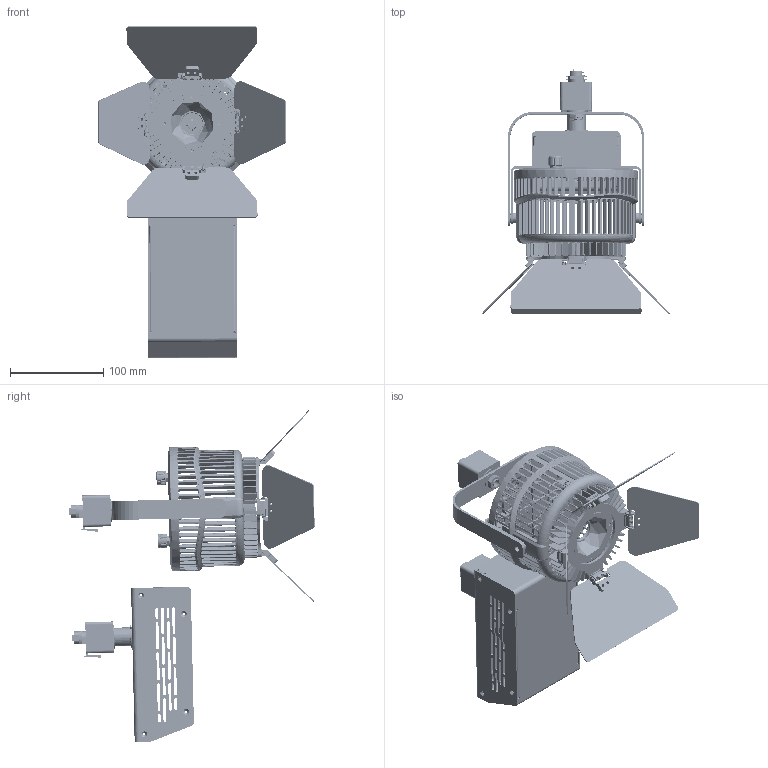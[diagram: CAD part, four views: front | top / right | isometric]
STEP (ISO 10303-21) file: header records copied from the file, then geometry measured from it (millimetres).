
FILE_DESCRIPTION (( 'STEP AP214' ), '1' );
FILE_NAME ('W500BD-TG-PS.STEP', '2024-02-01T20:05:30', ( '' ), ( '' ), 'SwSTEP 2.0', 'SolidWorks 2022', '' );
FILE_SCHEMA (( 'AUTOMOTIVE_DESIGN' ));
Length unit declared in the file: millimetre
Products named in the file (44): 5020893-3211020005_ _Flat Washer Customized, Nylon Black, ID11mm OD20mm T0.5mm___; 62280-1313006_ _SCREW, M3x6mmL, PAN HEAD TORX WITH THREAD LOCK___; 5022427-XXX_A4_250W Power Box FRAME (TG&TEX&CLP TYPE), 165x95x64mm___; 5022348-104_ _Toothed Washer Series, M3___; W500BD-TG-PS; 62432-11100100140040_ _Hex Nuts Customized, M10 P1.0 S14 T4 W-Zinc___; 5021287_A2_Toothed Lock Washer M6, OD11 ID6.4 T0.55, SUS___; 5022189_A1_Plate, OD=48, ID=23, T=2.0mm___; 5010177-XXX_A2_Assembly BOM, Kessil W500_55D-BD-[TEX]; 5022435_A2_G-Type Track Stop Washer, SUS304, 32x22x1(H)mm___; 5020655-012_A4_Hinge, Assembly, Barndoor Video Light, Pitch7.4, Black_01; 5022445-XXX_A1_DC Plug for W Series, D=12mm_-002(Black); 5022358-1051452003_ _Wave Spring Washer, ID10.5 OD14.5 H2.0 T0.3, Black___; 5022424-XXX_A2_250W Power Box Cover (TG&TEX-PS&CLP&TJ TYPE), 165x92x62.5(H)mm___; 5120540-XXX_A1_Rear Panel, OD=133, T=13.65mm, W-Series_5120531-001 W500; 5022667-XXX_A1_Holder, Barn Door Frame For W-Series, OD=107, T=3mm___; 5021498-114035130201_ _Standard Types of Tapping Screws for Plastic, Pan Head, Phillips, M3.5xL20___; 5022185_A3_Frame, T=1.5mm AL5052 Black, 24x20x65.15mm___; 5020757-002_A2_VR Washer, Kessil A360 Aquarium Light___; 5022341-XXX_A1_Minor Leaf of 3 inch Barndoor, L96, W77, T1.1___; 5022340-XXX_A1_Major Leaf of 3 inch Barndoor, L140, W77, T1.1___; 5020757-001_A1_VR Nut, Kessil A360 Aquarium Light___; 5120561_A1_Frame, T=1.5mm AL5052 Black, 17.5x20x65.15mm___; 5020919-XXX_A5_Spacer, Pitch 6.0, Light Shielding, Barn Door___; 5022493-XXX_A2_Spacer Support, ID10.5 OD20 H17mm___; 5120530-XXX_A1_Assembly BOM, W500 Reflector Type_Reflector - 55D-BD; 5021926-XXX_A2_KNOB, 18T, OD=14.9, ID=6, L=10MM_C1; 5120539-XXX_A1_Housing, OD=133, ID=121, T=78.1mm, For Reflector, Without Logo___; 5021924_A2_BOLT SCREW, M3.0, L=19.2MM___; 5022452-001_A3_Reflector Sink Holder, D108x14.35(H)mm (-002 is White)_-001(Black); 5120519-XXX_A3_Assembly BOM, Kessil W500 Power Box_TON(US)-PS; 5120529-XXX_A1_Assembly BOM, W500 Light Engine_Finish; 62280-1363006_ _SCREW, M3x6mmL, PAN HEAD TORX WITH THREAD LOCK___; 5020734-XXX_A3_Spacer, Hinge, Barn Door_-001_Black; 5020921-XXX_A5_Spacer, Pitch 7.4, Light Shielding, Barn Door___; 5022398-XXX_A1_Plug for W Series, 19x10x9.4mm_-002(Black); 5020655-011_A4_Hinge, Assembly, Barndoor Video Light, Pitch6.0, Black_01; 5022446-XXX_A2_W Series, 15F YOKE PART-A, 140x62x18mm___; 5120531-XXX_A4_Assembly BOM, Light Mounting Type for Yoke_TEX; 5047581-XXX_A2_Track Adapter for Global Eco Track (GES Series)_For W500 Power Box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
Assembly tree (63 placements, depth 4):
  W500BD-TG-PS
    5120519-XXX_A3_Assembly BOM, Kessil W500 Power Box_TON(US)-PS
      5022427-XXX_A4_250W Power Box FRAME (TG&TEX&CLP TYPE), 165x95x64mm___
      5047581-XXX_A2_Track Adapter for Global Eco Track (GES Series)_For W500 Power Box
      5022493-XXX_A2_Spacer Support, ID10.5 OD20 H17mm___
      5022424-XXX_A2_250W Power Box Cover (TG&TEX-PS&CLP&TJ TYPE), 165x92x62.5(H)mm___
    5010177-XXX_A2_Assembly BOM, Kessil W500_55D-BD-[TEX]
      5120529-XXX_A1_Assembly BOM, W500 Light Engine_Finish
        5120540-XXX_A1_Rear Panel, OD=133, T=13.65mm, W-Series_5120531-001 W500
        5022398-XXX_A1_Plug for W Series, 19x10x9.4mm_-002(Black)
        5022445-XXX_A1_DC Plug for W Series, D=12mm_-002(Black)
        5022185_A3_Frame, T=1.5mm AL5052 Black, 24x20x65.15mm___
        5120561_A1_Frame, T=1.5mm AL5052 Black, 17.5x20x65.15mm___
        5022348-104_ _Toothed Washer Series, M3___  x2
        62280-1313006_ _SCREW, M3x6mmL, PAN HEAD TORX WITH THREAD LOCK___  x4
        5021924_A2_BOLT SCREW, M3.0, L=19.2MM___  x2
        5020757-002_A2_VR Washer, Kessil A360 Aquarium Light___  x2
        5020757-001_A1_VR Nut, Kessil A360 Aquarium Light___  x2
        5021926-XXX_A2_KNOB, 18T, OD=14.9, ID=6, L=10MM_C1  x2
        62280-1363006_ _SCREW, M3x6mmL, PAN HEAD TORX WITH THREAD LOCK___  x2
      5120530-XXX_A1_Assembly BOM, W500 Reflector Type_Reflector - 55D-BD
        5120539-XXX_A1_Housing, OD=133, ID=121, T=78.1mm, For Reflector, Without Logo___
        5022189_A1_Plate, OD=48, ID=23, T=2.0mm___
        62280-1343006_ _SCREW, PAN HEAD TROX W-THD LOCK, SUS-410, BLACK, M3xL6mm___  x2
        5022452-001_A3_Reflector Sink Holder, D108x14.35(H)mm (-002 is White)_-001(Black)
        5021948_A1_Narrow Reflector, OD=54, T=15.6MM___
        5020655-011_A4_Hinge, Assembly, Barndoor Video Light, Pitch6.0, Black_01  x2
        5020919-XXX_A5_Spacer, Pitch 6.0, Light Shielding, Barn Door___  x2
        5022341-XXX_A1_Minor Leaf of 3 inch Barndoor, L96, W77, T1.1___  x2
        5020655-012_A4_Hinge, Assembly, Barndoor Video Light, Pitch7.4, Black_01  x2
        5020921-XXX_A5_Spacer, Pitch 7.4, Light Shielding, Barn Door___  x2
        5020734-XXX_A3_Spacer, Hinge, Barn Door_-001_Black  x2
        5022340-XXX_A1_Major Leaf of 3 inch Barndoor, L140, W77, T1.1___  x2
        5022667-XXX_A1_Holder, Barn Door Frame For W-Series, OD=107, T=3mm___
      5120531-XXX_A4_Assembly BOM, Light Mounting Type for Yoke_TEX
        5022447-XXX_A2_W Series, 15F YOKE PART-B, 146.2x122.5x20mm___
        5022446-XXX_A2_W Series, 15F YOKE PART-A, 140x62x18mm___
        5021287_A2_Toothed Lock Washer M6, OD11 ID6.4 T0.55, SUS___  x2
        5022358-1051452003_ _Wave Spring Washer, ID10.5 OD14.5 H2.0 T0.3, Black___
        5020893-3211020005_ _Flat Washer Customized, Nylon Black, ID11mm OD20mm T0.5mm___  x2
        5047581-XXX_A2_Track Adapter for Global Eco Track (GES Series)_Finish_3 for Yoke
        5022435_A2_G-Type Track Stop Washer, SUS304, 32x22x1(H)mm___
        5021498-114035130201_ _Standard Types of Tapping Screws for Plastic, Pan Head, Phillips, M3.5xL20___  x2
        62432-11100100140040_ _Hex Nuts Customized, M10 P1.0 S14 T4 W-Zinc___
Bounding box: 201.49 x 263.18 x 356.17 mm (x, y, z)
Volume: 375190.6 mm3; surface area: 457365.5 mm2
Topology: 96 solids, 96 shells, 8784 faces, 23983 edges, 15304 vertices
Faces by surface type: plane 3263, cylinder 3167, bspline 1245, cone 604, torus 477, sphere 28
Entity records: 376410 total; most frequent: CARTESIAN_POINT 187379, ORIENTED_EDGE 40600, DIRECTION 33455, EDGE_CURVE 20300, VERTEX_POINT 12952, AXIS2_PLACEMENT_3D 12219, LINE 9017, VECTOR 9017
